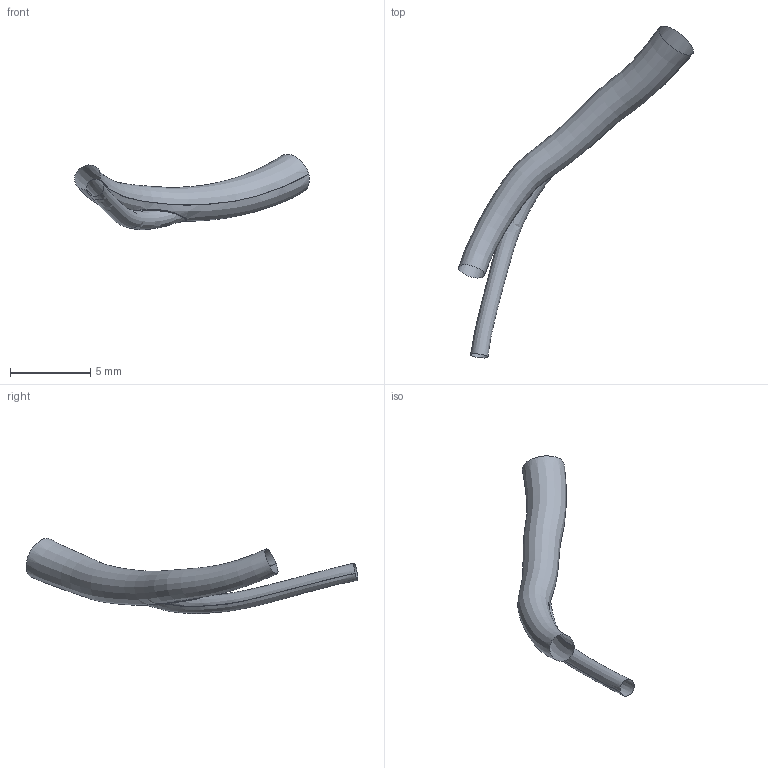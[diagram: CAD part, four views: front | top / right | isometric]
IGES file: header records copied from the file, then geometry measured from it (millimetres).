
Global section: file name: C:\Documents and Settings\Administrator\Desktop\FDA-Pig\Domestic LCA\Pig_000003\om.es.igs; native system: Rhinoceros ( May 19 2006 ); preprocessor: Trout Lake IGES 012 May 19 2006; date: 111205.182943; units: centimetre
Bounding box: 14.66 x 20.71 x 4.69 mm (x, y, z)
Surface area: 174.7 mm2 (no closed solid volume)
Topology: 0 solids, 0 shells, 3 faces, 62 edges, 59 vertices
Faces by surface type: bspline 3
